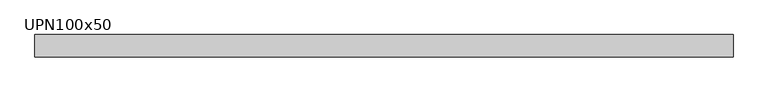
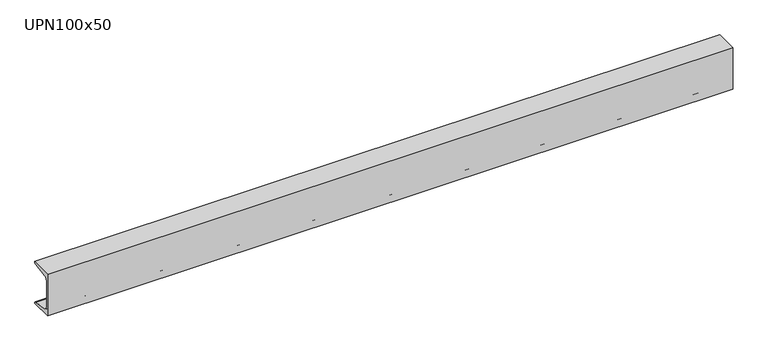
"""IFC4 building model written with IfcOpenShell, lengths in millimetres: beam geometry, M_MC Shapes : UPN100x50."""

from ifc_helpers import new_model, si_unit, point, frame, frame_2d, origin, place, context, project, spatial, polyline, circle_curve, trimmed, segment, composite_curve, outline, extrude, source, transform, mapped, element, save


def upn100x50_bf4f13ef(model_context):
    return source(origin(), model_context, "Body", "SweptSolid", [
        extrude(outline(composite_curve([segment(polyline([(-10.9, 50.0), (39.1, 50.0), (39.1, 49.0253247)]), True, "CONTINUOUS"), segment(trimmed(circle_curve(frame_2d((35.15, 49.0253247)), 3.95), [point((39.1, 49.0253247))], [point((35.7993773, 45.1290689))], False, "CARTESIAN"), True, "CONTINUOUS"), segment(polyline([(35.7993773, 45.1290689), (0.2512455, 39.2043685)]), True, "CONTINUOUS"), segment(trimmed(circle_curve(frame_2d((1.55, 31.4118569)), 7.9), [point((0.2512455, 39.2043685))], [point((-6.35, 31.4118569))], True, "CARTESIAN"), True, "CONTINUOUS"), segment(polyline([(-6.35, 31.4118569), (-6.35, -31.4118569)]), True, "CONTINUOUS"), segment(trimmed(circle_curve(frame_2d((1.55, -31.4118569)), 7.9), [point((-6.35, -31.4118569))], [point((0.2512455, -39.2043685))], True, "CARTESIAN"), True, "CONTINUOUS"), segment(polyline([(0.2512455, -39.2043685), (35.7993773, -45.1290689)]), True, "CONTINUOUS"), segment(trimmed(circle_curve(frame_2d((35.15, -49.0253247)), 3.95), [point((35.7993773, -45.1290689))], [point((39.1, -49.0253247))], False, "CARTESIAN"), True, "CONTINUOUS"), segment(polyline([(39.1, -49.0253247), (39.1, -50.0), (-10.9, -50.0), (-10.9, 50.0)]), True, "CONTINUOUS")], self_intersect=False)), frame((-760.6, 0.0, 0.0), z_axis=(1.0, 0.0, 0.0), x_axis=(0.0, 1.0, 0.0)), (0.0, 0.0, 1.0), 1550.6),
    ])


if __name__ == "__main__":
    model = new_model("IFC4")
    model_context = context("Model", 3, world=origin())
    ifc_project = project(units=[si_unit("LENGTHUNIT", "METRE", prefix="MILLI")], contexts=[model_context])
    site = spatial("IfcSite", under=ifc_project)
    building = spatial("IfcBuilding", under=site)
    placement = place(None, origin())
    upn100x50_shape = upn100x50_bf4f13ef(model_context)
    element("IfcBeam", 1, ObjectType="M_MC Shapes : UPN100x50", at=placement, inside=building, context=model_context, shape_type="MappedRepresentation", body=[
        mapped(upn100x50_shape, transform((0.0, 0.0, 0.0), x_axis=(1.0, 0.0, 0.0), y_axis=(0.0, 1.0, 0.0), z_axis=(0.0, 0.0, 1.0))),
    ])
    save(model, "model.ifc")
